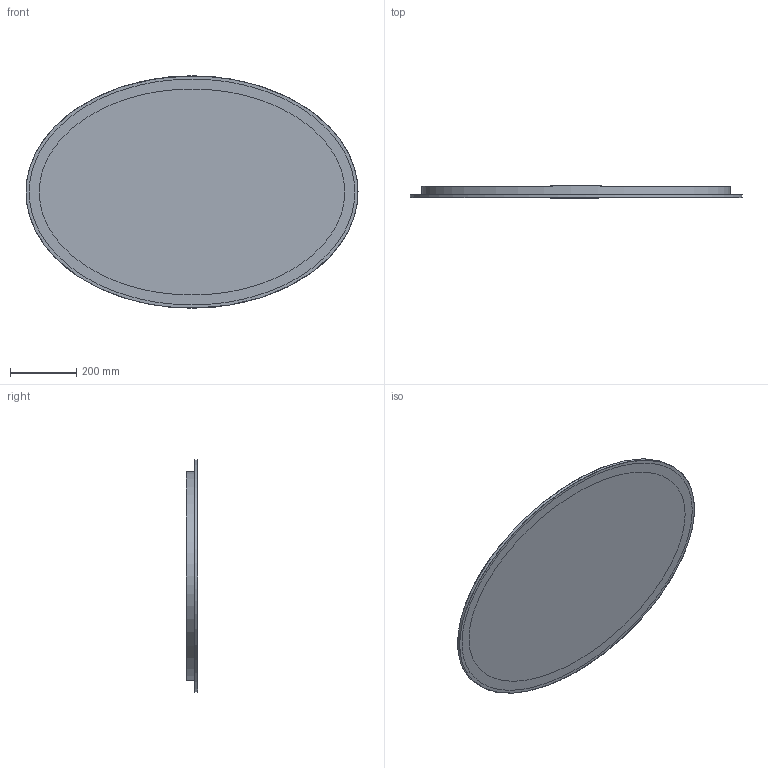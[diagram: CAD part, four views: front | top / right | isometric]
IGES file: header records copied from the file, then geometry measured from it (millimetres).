
Global section: file name: \\Archi-NAS\Comune\X GIOVANNI\SPECCHI\MIRR SLIM\MIRR SLIM_ELIPSE SABLE'.igs; native system: Rhinoceros ( Feb 23 2021 ); preprocessor: Trout Lake IGES 012 Feb 23 2021; date: 230608.080753; units: millimetre
Bounding box: 1000 x 35 x 700 mm (x, y, z)
Surface area: 2106945.1 mm2 (no closed solid volume)
Topology: 0 solids, 0 shells, 10 faces, 1294 edges, 1292 vertices
Faces by surface type: bspline 10
